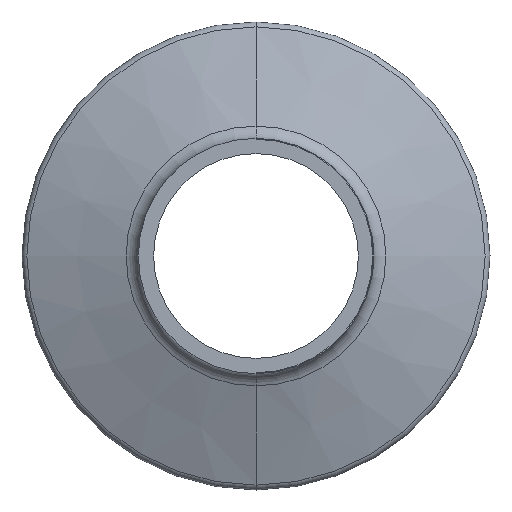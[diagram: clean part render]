
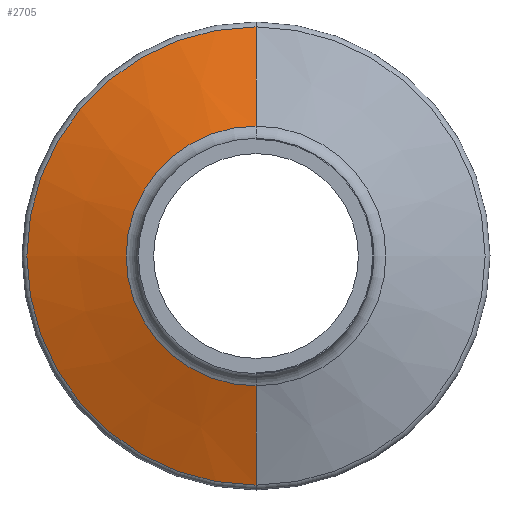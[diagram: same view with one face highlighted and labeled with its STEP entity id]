
A CAD part, front view. The second image highlights one B-rep face of the part: STEP entity #2705.
In plain terms, the highlighted conical face has half-angle 70 degrees and reference radius 19.37 mm.
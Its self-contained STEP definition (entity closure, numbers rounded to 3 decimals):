
#171=CARTESIAN_POINT('',(0.,-3.042,0.));
#172=DIRECTION('',(0.,-1.,0.));
#173=DIRECTION('',(0.,0.,1.));
#174=AXIS2_PLACEMENT_3D('',#171,#172,#173);
#191=DIRECTION('',(0.,-0.342,-0.94));
#192=VECTOR('',#191,11.395);
#193=CARTESIAN_POINT('',(0.,-3.042,24.724));
#194=LINE('',#193,#192);
#195=DIRECTION('',(0.,-0.342,0.94));
#196=VECTOR('',#195,11.395);
#197=CARTESIAN_POINT('',(0.,-3.042,-24.724));
#198=LINE('',#197,#196);
#1029=CARTESIAN_POINT('',(0.,-6.939,0.));
#1030=DIRECTION('',(0.,-1.,0.));
#1031=DIRECTION('',(0.,0.,1.));
#1032=AXIS2_PLACEMENT_3D('',#1029,#1030,#1031);
#2092=CARTESIAN_POINT('',(0.,-6.939,14.016));
#2093=CARTESIAN_POINT('',(0.,-6.939,-14.016));
#2094=VERTEX_POINT('',#2092);
#2095=VERTEX_POINT('',#2093);
#2096=CARTESIAN_POINT('',(0.,-3.042,24.724));
#2097=CARTESIAN_POINT('',(0.,-3.042,-24.724));
#2098=VERTEX_POINT('',#2096);
#2099=VERTEX_POINT('',#2097);
#2691=CARTESIAN_POINT('',(0.,-4.99,0.));
#2692=DIRECTION('',(0.,1.,0.));
#2693=DIRECTION('',(0.,0.,-1.));
#2694=AXIS2_PLACEMENT_3D('',#2691,#2692,#2693);
#2695=CONICAL_SURFACE('',#2694,19.37,70.);
#2697=ORIENTED_EDGE('',*,*,#2696,.T.);
#2699=ORIENTED_EDGE('',*,*,#2698,.T.);
#2701=ORIENTED_EDGE('',*,*,#2700,.F.);
#2702=ORIENTED_EDGE('',*,*,#2681,.F.);
#2703=EDGE_LOOP('',(#2697,#2699,#2701,#2702));
#2704=FACE_OUTER_BOUND('',#2703,.F.);
#2705=ADVANCED_FACE('',(#2704),#2695,.T.);
#175=CIRCLE('',#174,24.724);
#1033=CIRCLE('',#1032,14.016);
#2681=EDGE_CURVE('',#2098,#2099,#175,.T.);
#2696=EDGE_CURVE('',#2098,#2094,#194,.T.);
#2698=EDGE_CURVE('',#2094,#2095,#1033,.T.);
#2700=EDGE_CURVE('',#2099,#2095,#198,.T.);
